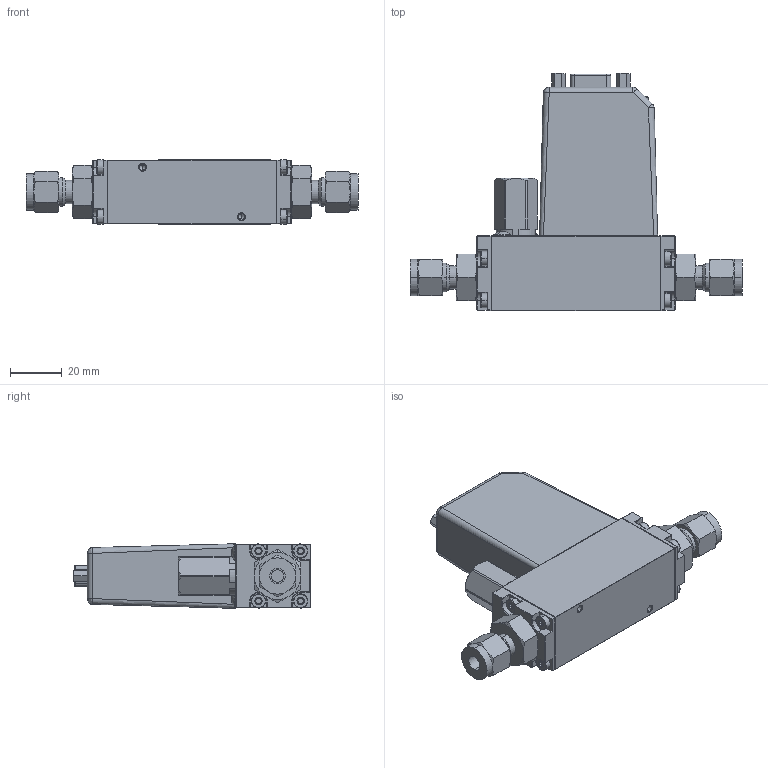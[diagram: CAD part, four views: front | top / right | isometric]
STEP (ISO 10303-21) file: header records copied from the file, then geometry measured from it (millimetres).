
FILE_DESCRIPTION (( 'STEP AP203' ), '1' );
FILE_NAME ('129275-_Publikationsmodell SFC5400_Swagelok-6mm.step', '2018-01-04T13:38:54', ( 'IT' ), ( '' ), 'SwSTEP 2.0', 'SolidWorks 2017', '' );
FILE_SCHEMA (( 'CONFIG_CONTROL_DESIGN' ));
Length unit declared in the file: millimetre
Products named in the file (8): M03-0037_00; swa_SS-6M0-1-6ST_00; 129252_SFC5400_Swagelok-6mm; swa_SS-6M0-1-6ST_gekürzt_00; 129252_SFC5400_Swagelok-6mm_gek〉zt; 05_Zylinderschraube mit Innensechsrund ISO 14580_M03x08; 129275-_Publikationsmodell SFC5400_Swagelok-6mm; 129048
Assembly tree (15 placements, depth 3):
  129275-_Publikationsmodell SFC5400_Swagelok-6mm
    129048
    129252_SFC5400_Swagelok-6mm
      M03-0037_00
      swa_SS-6M0-1-6ST_00
    129252_SFC5400_Swagelok-6mm_gek〉zt
      M03-0037_00
      swa_SS-6M0-1-6ST_gekürzt_00
    05_Zylinderschraube mit Innensechsrund ISO 14580_M03x08  x8
Bounding box: 127.79 x 91.2 x 24.8 mm (x, y, z)
Volume: 122431.4 mm3; surface area: 30614 mm2
Topology: 13 solids, 15 shells, 1451 faces, 3690 edges, 2303 vertices
Faces by surface type: plane 840, cylinder 330, cone 216, torus 41, bspline 20, sphere 4
Entity records: 36023 total; most frequent: CARTESIAN_POINT 7422, ORIENTED_EDGE 5828, DIRECTION 5554, EDGE_CURVE 2914, LINE 2192, VECTOR 2192, VERTEX_POINT 1842, AXIS2_PLACEMENT_3D 1681
